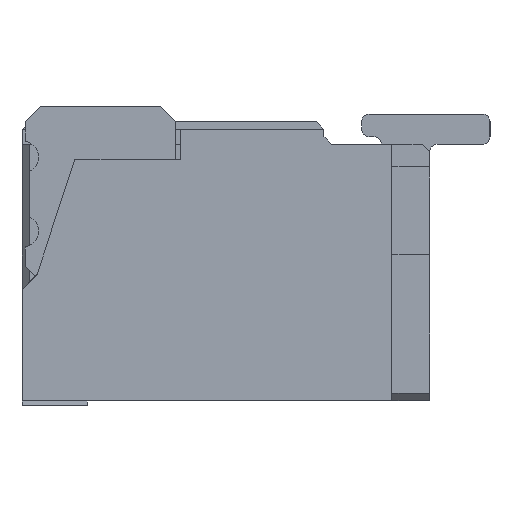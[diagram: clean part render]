
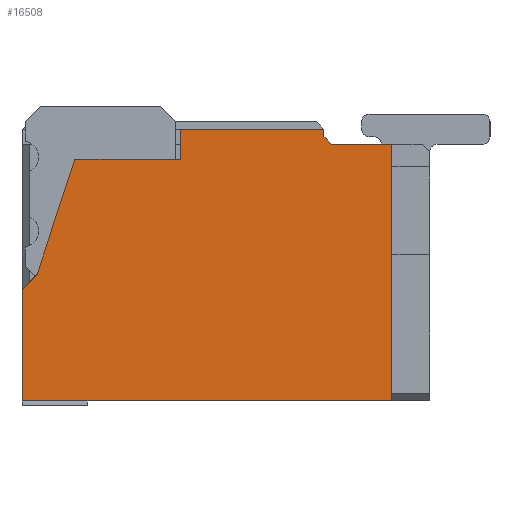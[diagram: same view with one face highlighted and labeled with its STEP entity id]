
A CAD part, left-side view. The second image highlights one B-rep face of the part: STEP entity #16508.
In plain terms, the highlighted planar face has unit normal (-1, 0, 0).
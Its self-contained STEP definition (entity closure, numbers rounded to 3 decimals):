
#1=DIRECTION('',(0.,-0.707,0.707));
#2=VECTOR('',#1,0.141);
#3=CARTESIAN_POINT('',(0.,0.,0.74));
#4=LINE('',#3,#2);
#5=DIRECTION('',(0.,-0.312,0.95));
#6=VECTOR('',#5,0.8);
#7=CARTESIAN_POINT('',(0.,-0.1,0.84));
#8=LINE('',#7,#6);
#9=DIRECTION('',(0.,0.,1.));
#10=VECTOR('',#9,0.2);
#11=CARTESIAN_POINT('',(0.,-1.05,1.6));
#12=LINE('',#11,#10);
#13=DIRECTION('',(0.,0.,-1.));
#14=VECTOR('',#13,0.05);
#15=CARTESIAN_POINT('',(0.,-2.,1.8));
#16=LINE('',#15,#14);
#17=DIRECTION('',(0.,-0.707,-0.707));
#18=VECTOR('',#17,0.071);
#19=CARTESIAN_POINT('',(0.,-2.,1.75));
#20=LINE('',#19,#18);
#21=DIRECTION('',(0.,-1.,0.));
#22=VECTOR('',#21,0.4);
#23=CARTESIAN_POINT('',(0.,-2.05,1.7));
#24=LINE('',#23,#22);
#91=DIRECTION('',(0.,1.,0.));
#92=VECTOR('',#91,0.7);
#93=CARTESIAN_POINT('',(0.,-1.05,1.6));
#94=LINE('',#93,#92);
#169=DIRECTION('',(0.,0.,-1.));
#170=VECTOR('',#169,0.74);
#171=CARTESIAN_POINT('',(0.,0.,0.74));
#172=LINE('',#171,#170);
#321=DIRECTION('',(0.,-1.,0.));
#322=VECTOR('',#321,2.45);
#323=CARTESIAN_POINT('',(0.,0.,0.));
#324=LINE('',#323,#322);
#373=DIRECTION('',(0.,0.,1.));
#374=VECTOR('',#373,1.7);
#375=CARTESIAN_POINT('',(0.,-2.45,0.));
#376=LINE('',#375,#374);
#8478=DIRECTION('',(0.,1.,0.));
#8479=VECTOR('',#8478,0.95);
#8480=CARTESIAN_POINT('',(0.,-2.,1.8));
#8481=LINE('',#8480,#8479);
#12694=CARTESIAN_POINT('',(0.,0.,0.74));
#12695=CARTESIAN_POINT('',(0.,-0.1,0.84));
#12696=VERTEX_POINT('',#12694);
#12697=VERTEX_POINT('',#12695);
#12698=CARTESIAN_POINT('',(0.,-0.35,1.6));
#12699=VERTEX_POINT('',#12698);
#12700=CARTESIAN_POINT('',(0.,-1.05,1.6));
#12701=VERTEX_POINT('',#12700);
#12702=CARTESIAN_POINT('',(0.,-1.05,1.8));
#12703=VERTEX_POINT('',#12702);
#12704=CARTESIAN_POINT('',(0.,-2.,1.8));
#12705=VERTEX_POINT('',#12704);
#12706=CARTESIAN_POINT('',(0.,-2.,1.75));
#12707=VERTEX_POINT('',#12706);
#12708=CARTESIAN_POINT('',(0.,-2.05,1.7));
#12709=VERTEX_POINT('',#12708);
#12710=CARTESIAN_POINT('',(0.,-2.45,1.7));
#12711=VERTEX_POINT('',#12710);
#12712=CARTESIAN_POINT('',(0.,-2.45,0.));
#12713=VERTEX_POINT('',#12712);
#12714=CARTESIAN_POINT('',(0.,0.,0.));
#12715=VERTEX_POINT('',#12714);
#16479=CARTESIAN_POINT('',(0.,0.,0.));
#16480=DIRECTION('',(1.,0.,0.));
#16481=DIRECTION('',(0.,-1.,0.));
#16482=AXIS2_PLACEMENT_3D('',#16479,#16480,#16481);
#16483=PLANE('',#16482);
#16485=ORIENTED_EDGE('',*,*,#16484,.T.);
#16487=ORIENTED_EDGE('',*,*,#16486,.T.);
#16489=ORIENTED_EDGE('',*,*,#16488,.F.);
#16491=ORIENTED_EDGE('',*,*,#16490,.T.);
#16493=ORIENTED_EDGE('',*,*,#16492,.F.);
#16495=ORIENTED_EDGE('',*,*,#16494,.T.);
#16497=ORIENTED_EDGE('',*,*,#16496,.T.);
#16499=ORIENTED_EDGE('',*,*,#16498,.T.);
#16501=ORIENTED_EDGE('',*,*,#16500,.F.);
#16503=ORIENTED_EDGE('',*,*,#16502,.F.);
#16505=ORIENTED_EDGE('',*,*,#16504,.F.);
#16506=EDGE_LOOP('',(#16485,#16487,#16489,#16491,#16493,#16495,#16497,#16499,
#16501,#16503,#16505));
#16507=FACE_OUTER_BOUND('',#16506,.F.);
#16484=EDGE_CURVE('',#12696,#12697,#4,.T.);
#16486=EDGE_CURVE('',#12697,#12699,#8,.T.);
#16488=EDGE_CURVE('',#12701,#12699,#94,.T.);
#16490=EDGE_CURVE('',#12701,#12703,#12,.T.);
#16492=EDGE_CURVE('',#12705,#12703,#8481,.T.);
#16494=EDGE_CURVE('',#12705,#12707,#16,.T.);
#16496=EDGE_CURVE('',#12707,#12709,#20,.T.);
#16498=EDGE_CURVE('',#12709,#12711,#24,.T.);
#16500=EDGE_CURVE('',#12713,#12711,#376,.T.);
#16502=EDGE_CURVE('',#12715,#12713,#324,.T.);
#16504=EDGE_CURVE('',#12696,#12715,#172,.T.);
#16508=ADVANCED_FACE('',(#16507),#16483,.F.);
